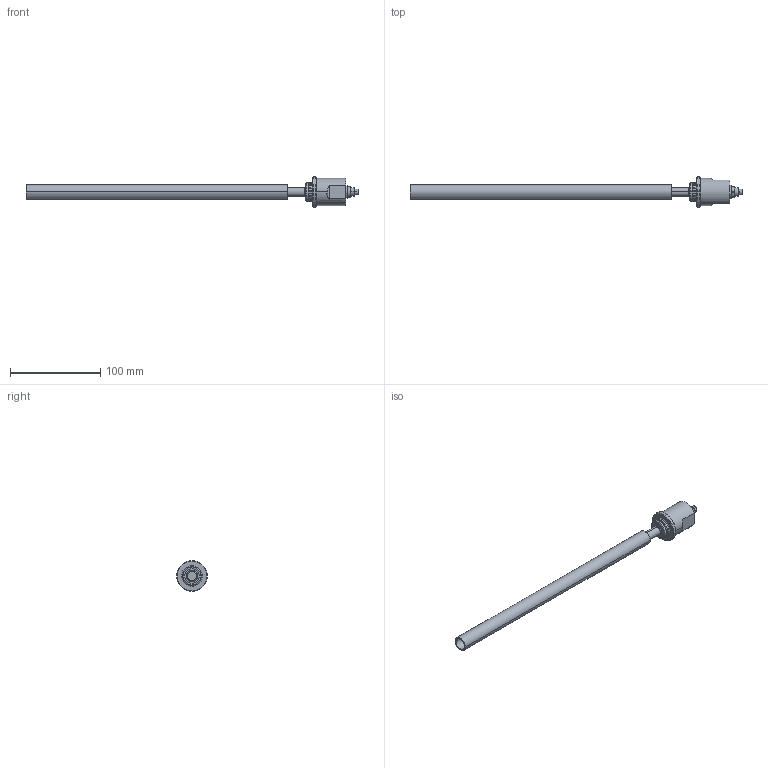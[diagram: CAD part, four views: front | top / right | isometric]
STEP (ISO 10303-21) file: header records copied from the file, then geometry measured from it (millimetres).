
FILE_DESCRIPTION((''),'2;1');
FILE_NAME('EDS-250-S-SA7_MIT_ROHR_ASM','2007-11-28T',('11000065'),(''),'PRO/ENGINEER BY PARAMETRIC TECHNOLOGY CORPORATION, 2007160','PRO/ENGINEER BY PARAMETRIC TECHNOLOGY CORPORATION, 2007160','');
FILE_SCHEMA(('AUTOMOTIVE_DESIGN { 1 2 10303 214 0 1 1 1 }'));
Length unit declared in the file: millimetre
Products named in the file (4): EDS-250-S-SA7; MESSROHR; O-RING-18X1_5; EDS-250-S-SA7_MIT_ROHR_ASM
Assembly tree (3 placements, depth 2):
  EDS-250-S-SA7_MIT_ROHR_ASM
    EDS-250-S-SA7
    MESSROHR
    O-RING-18X1_5
Bounding box: 368.19 x 34 x 34 mm (x, y, z)
Volume: 71966.8 mm3; surface area: 43026.5 mm2
Topology: 4 solids, 12 shells, 200 faces, 473 edges, 302 vertices
Faces by surface type: cylinder 95, plane 54, cone 20, sphere 14, torus 13, bspline 4
Entity records: 6550 total; most frequent: CARTESIAN_POINT 1343, DIRECTION 1100, ORIENTED_EDGE 914, AXIS2_PLACEMENT_3D 473, EDGE_CURVE 459, VERTEX_POINT 302, CIRCLE 268, EDGE_LOOP 239
